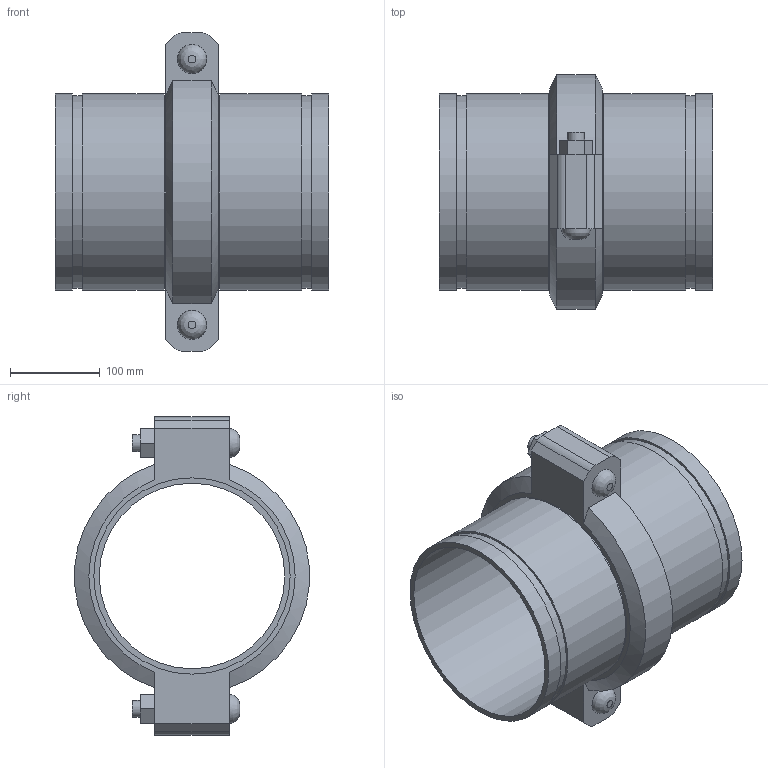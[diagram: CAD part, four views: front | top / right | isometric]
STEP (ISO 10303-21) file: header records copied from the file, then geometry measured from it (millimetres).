
FILE_DESCRIPTION(/* description */ ('VIC EXPANSION JOINT 1 COUPLING COMPRESSED STYLE 155 (OGS)','CAx-IF Rec.Pracs.---Representation and Presentation of Product Manufacturing Information (PMI)---4.0---2014-10-13'),/* implementation_level */ '2;1');
FILE_NAME(/* name */ 'C:\Users\kkamble\AppData\Roaming\Autodesk\ApplicationPlugins\Victaulic.Temp\A74\Victaulic_IPS_Expansion Joint_Compressed_1 Coupling_Style 155 (OGS)_8 (200).stp',/* time_stamp */ '2021-06-27T00:14:54+02:00',/* author */ ('kkamble'),/* organization */ ('Victaulic'),/* preprocessor_version */ 'ST-DEVELOPER v17.2',/* originating_system */ 'Autodesk Inventor 2019',/* authorisation */ '');
FILE_SCHEMA (('AP242_MANAGED_MODEL_BASED_3D_ENGINEERING_MIM_LF { 1 0 10303 442 1 1 4 }'));
Length unit declared in the file: inch
Products named in the file (3): 155-08.0; Nipple-08.0; 075-08.0
Assembly tree (3 placements, depth 2):
  155-08.0
    Nipple-08.0  x2
    075-08.0
Bounding box: 304.8 x 261.72 x 354.84 mm (x, y, z)
Volume: 2528735.5 mm3; surface area: 604898.7 mm2
Topology: 3 solids, 5 shells, 81 faces, 193 edges, 138 vertices
Faces by surface type: plane 48, cylinder 27, cone 4, bspline 2
Full cylindrical faces by diameter (mm): 19.05 x4, 21.209 x2, 206.985 x2, 212.725 x1, 214.401 x4, 219.075 x8
Entity records: 2310 total; most frequent: CARTESIAN_POINT 420, DIRECTION 369, ORIENTED_EDGE 326, EDGE_CURVE 163, AXIS2_PLACEMENT_3D 141, VERTEX_POINT 114, EDGE_LOOP 89, LINE 87
